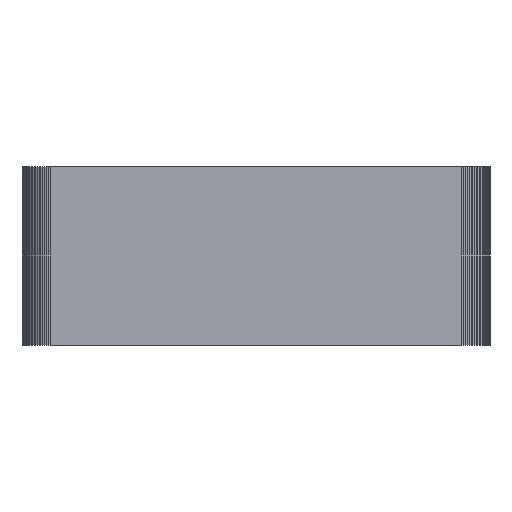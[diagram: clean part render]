
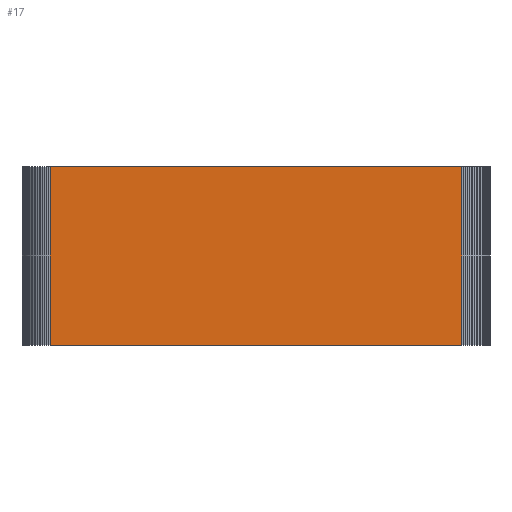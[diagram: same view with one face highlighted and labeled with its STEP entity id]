
A CAD part, left-side view. The second image highlights one B-rep face of the part: STEP entity #17.
In plain terms, the highlighted free-form (B-spline) face has degree [1, 1] with [2, 2] control points.
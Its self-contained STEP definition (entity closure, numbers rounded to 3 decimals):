
#17 = ADVANCED_FACE('',(#18),#31,.T.);
#18 = FACE_BOUND('',#19,.T.);
#19 = EDGE_LOOP('',(#20,#52,#77,#102));
#20 = ORIENTED_EDGE('',*,*,#21,.T.);
#21 = EDGE_CURVE('',#22,#24,#26,.T.);
#22 = VERTEX_POINT('',#23);
#23 = CARTESIAN_POINT('',(-3.5,0.,0.));
#24 = VERTEX_POINT('',#25);
#25 = CARTESIAN_POINT('',(-3.5,0.,
    22.));
#26 = SURFACE_CURVE('',#27,(#30,#41),.PCURVE_S1.);
#27 = B_SPLINE_CURVE_WITH_KNOTS('',1,(#28,#29),.UNSPECIFIED.,.F.,.F.,(2,
    2),(0.,866.142),.PIECEWISE_BEZIER_KNOTS.);
#28 = CARTESIAN_POINT('',(-3.5,0.,0.));
#29 = CARTESIAN_POINT('',(-3.5,0.,
    22.));
#30 = PCURVE('',#31,#36);
#31 = B_SPLINE_SURFACE_WITH_KNOTS('',1,1,(
    (#32,#33)
    ,(#34,#35
  )),.UNSPECIFIED.,.F.,.F.,.F.,(2,2),(2,2),(0.,1995.118),(-866.142
    ,0.),.PIECEWISE_BEZIER_KNOTS.);
#32 = CARTESIAN_POINT('',(-3.5,0.,
    22.));
#33 = CARTESIAN_POINT('',(-3.5,0.,0.));
#34 = CARTESIAN_POINT('',(-3.5,50.676,
    22.));
#35 = CARTESIAN_POINT('',(-3.5,50.676,0.));
#36 = DEFINITIONAL_REPRESENTATION('',(#37),#40);
#37 = B_SPLINE_CURVE_WITH_KNOTS('',1,(#38,#39),.UNSPECIFIED.,.F.,.F.,(2,
    2),(0.,866.142),.PIECEWISE_BEZIER_KNOTS.);
#38 = CARTESIAN_POINT('',(0.,0.));
#39 = CARTESIAN_POINT('',(0.,-866.142));
#40 = ( GEOMETRIC_REPRESENTATION_CONTEXT(2) 
PARAMETRIC_REPRESENTATION_CONTEXT() REPRESENTATION_CONTEXT('2D SPACE',''
  ) );
#41 = PCURVE('',#42,#47);
#42 = B_SPLINE_SURFACE_WITH_KNOTS('',1,1,(
    (#43,#44)
    ,(#45,#46
    )),.UNSPECIFIED.,.F.,.F.,.F.,(2,2),(2,2),(0.,9.409),(
    -866.142,0.),.PIECEWISE_BEZIER_KNOTS.);
#43 = CARTESIAN_POINT('',(-3.492,-0.239,
    22.));
#44 = CARTESIAN_POINT('',(-3.492,-0.239,0.));
#45 = CARTESIAN_POINT('',(-3.5,0.,
    22.));
#46 = CARTESIAN_POINT('',(-3.5,0.,0.));
#47 = DEFINITIONAL_REPRESENTATION('',(#48),#51);
#48 = B_SPLINE_CURVE_WITH_KNOTS('',1,(#49,#50),.UNSPECIFIED.,.F.,.F.,(2,
    2),(0.,866.142),.PIECEWISE_BEZIER_KNOTS.);
#49 = CARTESIAN_POINT('',(9.409,0.));
#50 = CARTESIAN_POINT('',(9.409,-866.142));
#51 = ( GEOMETRIC_REPRESENTATION_CONTEXT(2) 
PARAMETRIC_REPRESENTATION_CONTEXT() REPRESENTATION_CONTEXT('2D SPACE',''
  ) );
#52 = ORIENTED_EDGE('',*,*,#53,.T.);
#53 = EDGE_CURVE('',#24,#54,#56,.T.);
#54 = VERTEX_POINT('',#55);
#55 = CARTESIAN_POINT('',(-3.5,50.676,
    22.));
#56 = SURFACE_CURVE('',#57,(#60,#66),.PCURVE_S1.);
#57 = B_SPLINE_CURVE_WITH_KNOTS('',1,(#58,#59),.UNSPECIFIED.,.F.,.F.,(2,
    2),(0.,1995.118),.PIECEWISE_BEZIER_KNOTS.);
#58 = CARTESIAN_POINT('',(-3.5,0.,
    22.));
#59 = CARTESIAN_POINT('',(-3.5,50.676,
    22.));
#60 = PCURVE('',#31,#61);
#61 = DEFINITIONAL_REPRESENTATION('',(#62),#65);
#62 = B_SPLINE_CURVE_WITH_KNOTS('',1,(#63,#64),.UNSPECIFIED.,.F.,.F.,(2,
    2),(0.,1995.118),.PIECEWISE_BEZIER_KNOTS.);
#63 = CARTESIAN_POINT('',(0.,-866.142));
#64 = CARTESIAN_POINT('',(1995.118,-866.142));
#65 = ( GEOMETRIC_REPRESENTATION_CONTEXT(2) 
PARAMETRIC_REPRESENTATION_CONTEXT() REPRESENTATION_CONTEXT('2D SPACE',''
  ) );
#66 = PCURVE('',#67,#72);
#67 = B_SPLINE_SURFACE_WITH_KNOTS('',1,1,(
    (#68,#69)
    ,(#70,#71
    )),.UNSPECIFIED.,.F.,.F.,.F.,(2,2),(2,2),(-1751.969,
    1751.969),(-1135.354,1135.354),
  .PIECEWISE_BEZIER_KNOTS.);
#68 = CARTESIAN_POINT('',(85.5,-3.5,
    22.));
#69 = CARTESIAN_POINT('',(85.5,54.176,
    22.));
#70 = CARTESIAN_POINT('',(-3.5,-3.5,
    22.));
#71 = CARTESIAN_POINT('',(-3.5,54.176,
    22.));
#72 = DEFINITIONAL_REPRESENTATION('',(#73),#76);
#73 = B_SPLINE_CURVE_WITH_KNOTS('',1,(#74,#75),.UNSPECIFIED.,.F.,.F.,(2,
    2),(0.,1995.118),.PIECEWISE_BEZIER_KNOTS.);
#74 = CARTESIAN_POINT('',(1751.969,-997.559));
#75 = CARTESIAN_POINT('',(1751.969,997.559));
#76 = ( GEOMETRIC_REPRESENTATION_CONTEXT(2) 
PARAMETRIC_REPRESENTATION_CONTEXT() REPRESENTATION_CONTEXT('2D SPACE',''
  ) );
#77 = ORIENTED_EDGE('',*,*,#78,.F.);
#78 = EDGE_CURVE('',#79,#54,#81,.T.);
#79 = VERTEX_POINT('',#80);
#80 = CARTESIAN_POINT('',(-3.5,50.676,0.));
#81 = SURFACE_CURVE('',#82,(#85,#91),.PCURVE_S1.);
#82 = B_SPLINE_CURVE_WITH_KNOTS('',1,(#83,#84),.UNSPECIFIED.,.F.,.F.,(2,
    2),(0.,866.142),.PIECEWISE_BEZIER_KNOTS.);
#83 = CARTESIAN_POINT('',(-3.5,50.676,0.));
#84 = CARTESIAN_POINT('',(-3.5,50.676,
    22.));
#85 = PCURVE('',#31,#86);
#86 = DEFINITIONAL_REPRESENTATION('',(#87),#90);
#87 = B_SPLINE_CURVE_WITH_KNOTS('',1,(#88,#89),.UNSPECIFIED.,.F.,.F.,(2,
    2),(0.,866.142),.PIECEWISE_BEZIER_KNOTS.);
#88 = CARTESIAN_POINT('',(1995.118,0.));
#89 = CARTESIAN_POINT('',(1995.118,-866.142));
#90 = ( GEOMETRIC_REPRESENTATION_CONTEXT(2) 
PARAMETRIC_REPRESENTATION_CONTEXT() REPRESENTATION_CONTEXT('2D SPACE',''
  ) );
#91 = PCURVE('',#92,#97);
#92 = B_SPLINE_SURFACE_WITH_KNOTS('',1,1,(
    (#93,#94)
    ,(#95,#96
    )),.UNSPECIFIED.,.F.,.F.,.F.,(2,2),(2,2),(0.,9.409),(
    -866.142,0.),.PIECEWISE_BEZIER_KNOTS.);
#93 = CARTESIAN_POINT('',(-3.5,50.676,
    22.));
#94 = CARTESIAN_POINT('',(-3.5,50.676,0.));
#95 = CARTESIAN_POINT('',(-3.492,50.915,
    22.));
#96 = CARTESIAN_POINT('',(-3.492,50.915,0.));
#97 = DEFINITIONAL_REPRESENTATION('',(#98),#101);
#98 = B_SPLINE_CURVE_WITH_KNOTS('',1,(#99,#100),.UNSPECIFIED.,.F.,.F.,(2
    ,2),(0.,866.142),.PIECEWISE_BEZIER_KNOTS.);
#99 = CARTESIAN_POINT('',(0.,0.));
#100 = CARTESIAN_POINT('',(0.,-866.142));
#101 = ( GEOMETRIC_REPRESENTATION_CONTEXT(2) 
PARAMETRIC_REPRESENTATION_CONTEXT() REPRESENTATION_CONTEXT('2D SPACE',''
  ) );
#102 = ORIENTED_EDGE('',*,*,#103,.F.);
#103 = EDGE_CURVE('',#22,#79,#104,.T.);
#104 = SURFACE_CURVE('',#105,(#108,#114),.PCURVE_S1.);
#105 = B_SPLINE_CURVE_WITH_KNOTS('',1,(#106,#107),.UNSPECIFIED.,.F.,.F.,
  (2,2),(0.,1995.118),.PIECEWISE_BEZIER_KNOTS.);
#106 = CARTESIAN_POINT('',(-3.5,0.,0.));
#107 = CARTESIAN_POINT('',(-3.5,50.676,0.));
#108 = PCURVE('',#31,#109);
#109 = DEFINITIONAL_REPRESENTATION('',(#110),#113);
#110 = B_SPLINE_CURVE_WITH_KNOTS('',1,(#111,#112),.UNSPECIFIED.,.F.,.F.,
  (2,2),(0.,1995.118),.PIECEWISE_BEZIER_KNOTS.);
#111 = CARTESIAN_POINT('',(0.,0.));
#112 = CARTESIAN_POINT('',(1995.118,0.));
#113 = ( GEOMETRIC_REPRESENTATION_CONTEXT(2) 
PARAMETRIC_REPRESENTATION_CONTEXT() REPRESENTATION_CONTEXT('2D SPACE',''
  ) );
#114 = PCURVE('',#115,#120);
#115 = B_SPLINE_SURFACE_WITH_KNOTS('',1,1,(
    (#116,#117)
    ,(#118,#119
    )),.UNSPECIFIED.,.F.,.F.,.F.,(2,2),(2,2),(-1751.969,
    1751.969),(-1135.354,1135.354),
  .PIECEWISE_BEZIER_KNOTS.);
#116 = CARTESIAN_POINT('',(85.5,-3.5,0.));
#117 = CARTESIAN_POINT('',(85.5,54.176,0.));
#118 = CARTESIAN_POINT('',(-3.5,-3.5,0.));
#119 = CARTESIAN_POINT('',(-3.5,54.176,0.));
#120 = DEFINITIONAL_REPRESENTATION('',(#121),#124);
#121 = B_SPLINE_CURVE_WITH_KNOTS('',1,(#122,#123),.UNSPECIFIED.,.F.,.F.,
  (2,2),(0.,1995.118),.PIECEWISE_BEZIER_KNOTS.);
#122 = CARTESIAN_POINT('',(1751.969,-997.559));
#123 = CARTESIAN_POINT('',(1751.969,997.559));
#124 = ( GEOMETRIC_REPRESENTATION_CONTEXT(2) 
PARAMETRIC_REPRESENTATION_CONTEXT() REPRESENTATION_CONTEXT('2D SPACE',''
  ) );
